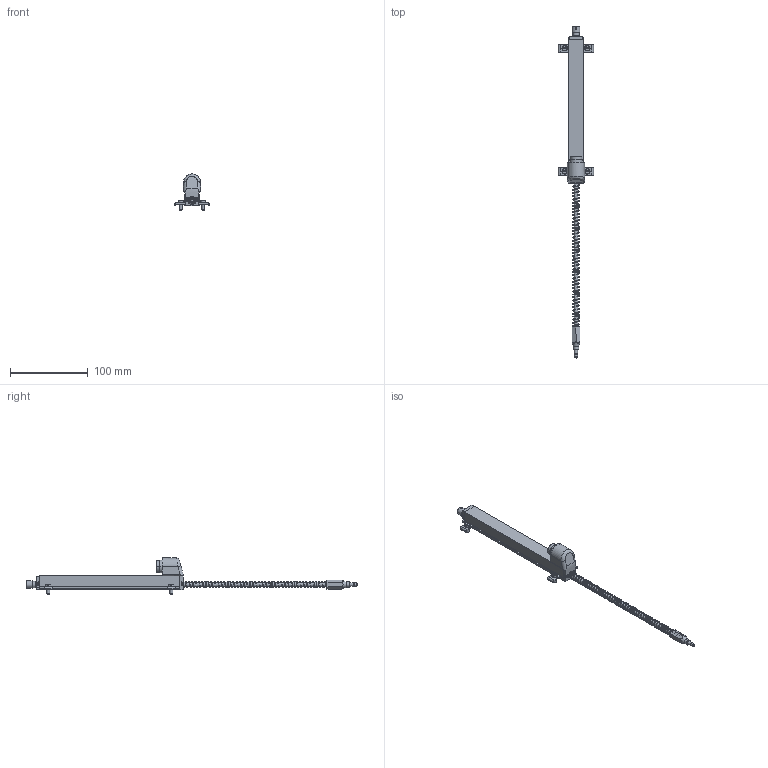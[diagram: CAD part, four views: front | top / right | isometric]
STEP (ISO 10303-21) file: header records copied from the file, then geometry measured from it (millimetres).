
FILE_DESCRIPTION( ( 'Unknown' ), '1' );
FILE_NAME( 'P:/Fertigung_TTS/2_TTS/1_CAD-Daten/4_Handelsware/3_Linearpotentiometer/LRW2_LRW3/4_Step/LRW2-C-150.stp', 'Unknown', ( 'WayCon' ), ( 'WayCon Positionsmesstechnik' ), 'PSStep 17.0.49', 'Unknown', ' ' );
FILE_SCHEMA( ( 'AUTOMOTIVE_DESIGN { 1 0 10303 214 1 1 1 1 }' ) );
Length unit declared in the file: millimetre
Products named in the file (45): MIM600X; MIM892X_ISO 1207 - M4 x 10 --- 10S; BUS023X; Molla PY compressa MIM401X_Posizione Lavoro; TES053X; BUS015X; BUS022X; TAS000X_Assemblato; MIM828X_ISO 7045 - M2.5 x 8 - Z --- 8S; STA029X; MIM510X_DIN 6905-3.6-FSt; PUN001X; CUS046X; 1; TES049X; CON010X
Bounding box: 45 x 425.99 x 46.3 mm (x, y, z)
Volume: 1651.2 mm3; surface area: 36009.9 mm2
Topology: 18 solids, 387 shells, 503 faces, 2040 edges, 1896 vertices
Faces by surface type: plane 287, cylinder 117, cone 61, torus 20, sphere 10, bspline 8
Full cylindrical faces by diameter (mm): 1.6 x1, 2.5 x2, 3.2 x1, 3.8 x2, 4 x10, 4.3 x4, 5 x5, 5.1 x8, 6.3 x14, 7 x2, 7.8 x8, 8 x1, 8.5 x1, 10 x1, 20.2 x1
Entity records: 33400 total; most frequent: CARTESIAN_POINT 13410, DIRECTION 3410, ORIENTED_EDGE 2021, EDGE_CURVE 1855, VERTEX_POINT 1838, AXIS2_PLACEMENT_3D 1271, LINE 868, VECTOR 868
